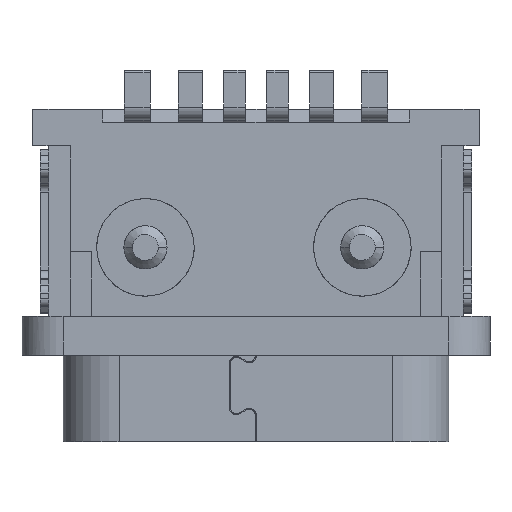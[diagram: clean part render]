
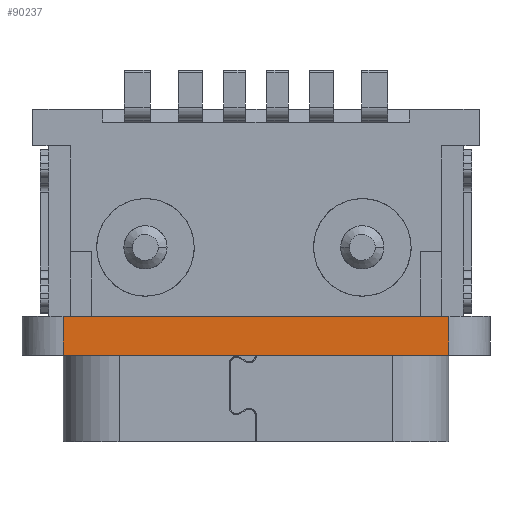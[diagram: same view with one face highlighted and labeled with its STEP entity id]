
A CAD part, front view. The second image highlights one B-rep face of the part: STEP entity #90237.
In plain terms, the highlighted planar face has unit normal (0, -1, 0).
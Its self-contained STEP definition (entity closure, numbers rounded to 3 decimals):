
#742 = ORIENTED_EDGE ( 'NONE', *, *, #75162, .F. ) ;
#990 = B_SPLINE_CURVE_WITH_KNOTS ( 'NONE', 3,
 ( #45759, #75962, #31412, #38341 ),
 .UNSPECIFIED., .F., .F.,
 ( 4, 4 ),
 ( 0., 1. ),
 .UNSPECIFIED. ) ;
#1237 = VERTEX_POINT ( 'NONE', #24945 ) ;
#2871 = VERTEX_POINT ( 'NONE', #35699 ) ;
#9448 = CARTESIAN_POINT ( 'NONE',  ( 25.53, -2.53, 2. ) ) ;
#15462 = EDGE_CURVE ( 'NONE', #54947, #2871, #16882, .T. ) ;
#16882 = B_SPLINE_CURVE_WITH_KNOTS ( 'NONE', 3,
 ( #45976, #76178, #27126, #35034 ),
 .UNSPECIFIED., .F., .F.,
 ( 4, 4 ),
 ( 0., 1. ),
 .UNSPECIFIED. ) ;
#23890 = ORIENTED_EDGE ( 'NONE', *, *, #56217, .F. ) ;
#24945 = CARTESIAN_POINT ( 'NONE',  ( 34.47, -2.53, 2. ) ) ;
#26706 = EDGE_LOOP ( 'NONE', ( #23890, #60629, #46286, #742 ) ) ;
#27126 = CARTESIAN_POINT ( 'NONE',  ( 31.49, -2.53, 2.9 ) ) ;
#27627 = CARTESIAN_POINT ( 'NONE',  ( 28.51, -2.53, 2. ) ) ;
#31412 = CARTESIAN_POINT ( 'NONE',  ( 34.47, -2.53, 2.3 ) ) ;
#32043 = FACE_OUTER_BOUND ( 'NONE', #26706, .T. ) ;
#35034 = CARTESIAN_POINT ( 'NONE',  ( 34.47, -2.53, 2.9 ) ) ;
#35699 = CARTESIAN_POINT ( 'NONE',  ( 34.47, -2.53, 2.9 ) ) ;
#37519 = DIRECTION ( 'NONE',  ( 0., 1., 0. ) ) ;
#38321 = CARTESIAN_POINT ( 'NONE',  ( 31.49, -2.53, 2. ) ) ;
#38339 = EDGE_CURVE ( 'NONE', #64421, #54947, #81399, .T. ) ;
#38341 = CARTESIAN_POINT ( 'NONE',  ( 34.47, -2.53, 2. ) ) ;
#38491 = CARTESIAN_POINT ( 'NONE',  ( 24.53, -2.53, 1.5 ) ) ;
#39467 = DIRECTION ( 'NONE',  ( 1., 0., 0. ) ) ;
#45064 = CARTESIAN_POINT ( 'NONE',  ( 25.53, -2.53, 2.6 ) ) ;
#45744 = CARTESIAN_POINT ( 'NONE',  ( 34.47, -2.53, 2. ) ) ;
#45759 = CARTESIAN_POINT ( 'NONE',  ( 34.47, -2.53, 2.9 ) ) ;
#45976 = CARTESIAN_POINT ( 'NONE',  ( 25.53, -2.53, 2.9 ) ) ;
#46032 = CARTESIAN_POINT ( 'NONE',  ( 25.53, -2.53, 2.9 ) ) ;
#46286 = ORIENTED_EDGE ( 'NONE', *, *, #38339, .F. ) ;
#54947 = VERTEX_POINT ( 'NONE', #73509 ) ;
#56217 = EDGE_CURVE ( 'NONE', #2871, #1237, #990, .T. ) ;
#56221 = CARTESIAN_POINT ( 'NONE',  ( 25.53, -2.53, 2. ) ) ;
#60629 = ORIENTED_EDGE ( 'NONE', *, *, #15462, .F. ) ;
#61129 = AXIS2_PLACEMENT_3D ( 'NONE', #38491, #37519, #39467 ) ;
#64421 = VERTEX_POINT ( 'NONE', #56221 ) ;
#67047 = CARTESIAN_POINT ( 'NONE',  ( 25.53, -2.53, 2. ) ) ;
#73509 = CARTESIAN_POINT ( 'NONE',  ( 25.53, -2.53, 2.9 ) ) ;
#75162 = EDGE_CURVE ( 'NONE', #1237, #64421, #95514, .T. ) ;
#75962 = CARTESIAN_POINT ( 'NONE',  ( 34.47, -2.53, 2.6 ) ) ;
#76178 = CARTESIAN_POINT ( 'NONE',  ( 28.51, -2.53, 2.9 ) ) ;
#81399 = B_SPLINE_CURVE_WITH_KNOTS ( 'NONE', 3,
 ( #9448, #91083, #45064, #46032 ),
 .UNSPECIFIED., .F., .F.,
 ( 4, 4 ),
 ( 0., 1. ),
 .UNSPECIFIED. ) ;
#84491 = PLANE ( 'NONE',  #61129 ) ;
#90237 = ADVANCED_FACE ( 'NONE', ( #32043 ), #84491, .F. ) ;
#91083 = CARTESIAN_POINT ( 'NONE',  ( 25.53, -2.53, 2.3 ) ) ;
#95514 = B_SPLINE_CURVE_WITH_KNOTS ( 'NONE', 3,
 ( #45744, #38321, #27627, #67047 ),
 .UNSPECIFIED., .F., .F.,
 ( 4, 4 ),
 ( 0., 1. ),
 .UNSPECIFIED. ) ;
